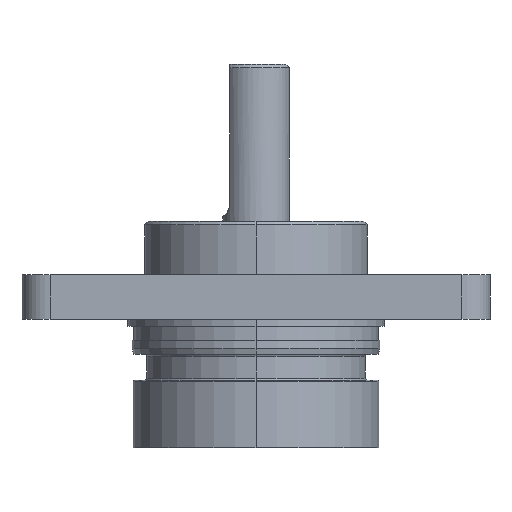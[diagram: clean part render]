
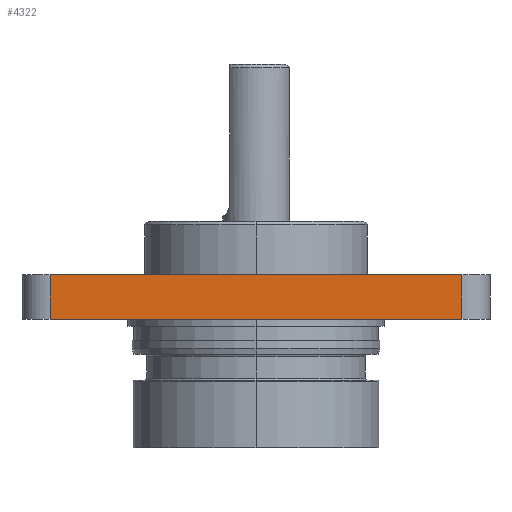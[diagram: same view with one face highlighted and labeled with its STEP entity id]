
A CAD part, left-side view. The second image highlights one B-rep face of the part: STEP entity #4322.
In plain terms, the highlighted planar face has unit normal (-1, 0, 0).
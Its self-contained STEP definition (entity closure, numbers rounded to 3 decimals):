
#1764 = CARTESIAN_POINT ( 'NONE',  ( -33.35, -29.35, 6.35 ) ) ;
#1765 = LINE ( 'NONE', #1764, #1768 ) ;
#1767 = DIRECTION ( 'NONE',  ( 0., 0., -1. ) ) ;
#1768 = VECTOR ( 'NONE', #1767, 1000. ) ;
#4322 = ADVANCED_FACE ( 'NONE', ( #6418 ), #6467, .F. ) ;
#4323 = EDGE_LOOP ( 'NONE', ( #4324, #4325, #4452, #4453 ) ) ;
#4324 = ORIENTED_EDGE ( 'NONE', *, *, #4360, .T. ) ;
#4325 = ORIENTED_EDGE ( 'NONE', *, *, #4451, .F. ) ;
#4326 = VERTEX_POINT ( 'NONE', #6462 ) ;
#4329 = VERTEX_POINT ( 'NONE', #6486 ) ;
#4346 = VERTEX_POINT ( 'NONE', #6562 ) ;
#4360 = EDGE_CURVE ( 'NONE', #4397, #4329, #6513, .T. ) ;
#4383 = EDGE_CURVE ( 'NONE', #4346, #4397, #6607, .T. ) ;
#4391 = EDGE_CURVE ( 'NONE', #4346, #4326, #6566, .T. ) ;
#4397 = VERTEX_POINT ( 'NONE', #6671 ) ;
#4451 = EDGE_CURVE ( 'NONE', #4326, #4329, #1765, .T. ) ;
#4452 = ORIENTED_EDGE ( 'NONE', *, *, #4391, .F. ) ;
#4453 = ORIENTED_EDGE ( 'NONE', *, *, #4383, .T. ) ;
#6418 = FACE_OUTER_BOUND ( 'NONE', #4323, .T. ) ;
#6462 = CARTESIAN_POINT ( 'NONE',  ( -33.35, -29.35, 6.35 ) ) ;
#6463 = DIRECTION ( 'NONE',  ( 0., 1., 0. ) ) ;
#6464 = DIRECTION ( 'NONE',  ( 1., 0., 0. ) ) ;
#6465 = CARTESIAN_POINT ( 'NONE',  ( -33.35, 29.35, 6.35 ) ) ;
#6466 = AXIS2_PLACEMENT_3D ( 'NONE', #6465, #6464, #6463 ) ;
#6467 = PLANE ( 'NONE',  #6466 ) ;
#6486 = CARTESIAN_POINT ( 'NONE',  ( -33.35, -29.35, 0. ) ) ;
#6510 = DIRECTION ( 'NONE',  ( 0., -1., 0. ) ) ;
#6511 = VECTOR ( 'NONE', #6510, 1000. ) ;
#6512 = CARTESIAN_POINT ( 'NONE',  ( -33.35, 29.35, 0. ) ) ;
#6513 = LINE ( 'NONE', #6512, #6511 ) ;
#6562 = CARTESIAN_POINT ( 'NONE',  ( -33.35, 29.35, 6.35 ) ) ;
#6566 = LINE ( 'NONE', #6681, #6680 ) ;
#6577 = DIRECTION ( 'NONE',  ( 0., 0., -1. ) ) ;
#6585 = VECTOR ( 'NONE', #6577, 1000. ) ;
#6607 = LINE ( 'NONE', #6624, #6585 ) ;
#6624 = CARTESIAN_POINT ( 'NONE',  ( -33.35, 29.35, 6.35 ) ) ;
#6671 = CARTESIAN_POINT ( 'NONE',  ( -33.35, 29.35, 0. ) ) ;
#6680 = VECTOR ( 'NONE', #6682, 1000. ) ;
#6681 = CARTESIAN_POINT ( 'NONE',  ( -33.35, 29.35, 6.35 ) ) ;
#6682 = DIRECTION ( 'NONE',  ( 0., -1., 0. ) ) ;
